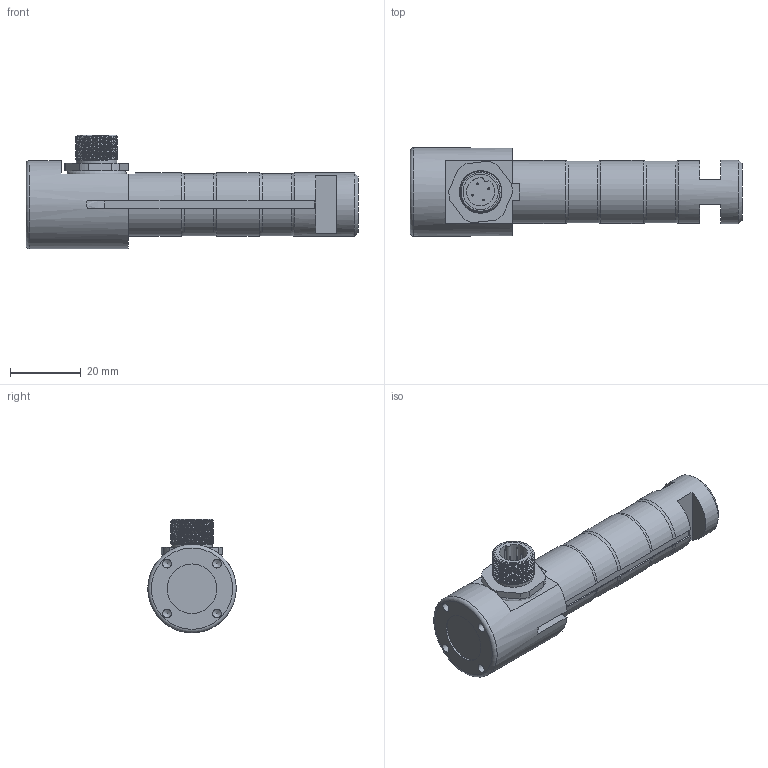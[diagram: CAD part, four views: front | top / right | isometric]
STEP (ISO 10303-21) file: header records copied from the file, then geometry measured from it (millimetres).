
FILE_DESCRIPTION(/* description */ ('Alibre Inc.'),/* implementation_level */ '2;1');
FILE_NAME(/* name */ 'export0',/* time_stamp */ '2015-12-18T13:51:48+01:00',/* author */ (''),/* organization */ (''),/* preprocessor_version */ 'ST-DEVELOPER v14',/* originating_system */ 'Alibre',/* authorisation */ '');
FILE_SCHEMA (('CONFIG_CONTROL_DESIGN'));
Length unit declared in the file: centimetre
Products named in the file (6): ID_1; ID_2; ID_3; ID_4
Bounding box: 94 x 25 x 32.17 mm (x, y, z)
Volume: 28669.9 mm3; surface area: 11186 mm2
Topology: 8 solids, 8 shells, 161 faces, 375 edges, 235 vertices
Faces by surface type: plane 66, cylinder 53, bspline 23, torus 10, cone 9
Full cylindrical faces by diameter (mm): 0.5 x8, 2.459 x4, 8 x2, 10 x3, 11.5 x1, 13 x1, 14 x1, 14.376 x1, 18 x1, 25 x1
Entity records: 14392 total; most frequent: CARTESIAN_POINT 10864, ORIENTED_EDGE 660, DIRECTION 437, EDGE_CURVE 325, VERTEX_POINT 224, FACE_BOUND 212, EDGE_LOOP 207, AXIS2_PLACEMENT_3D 191
